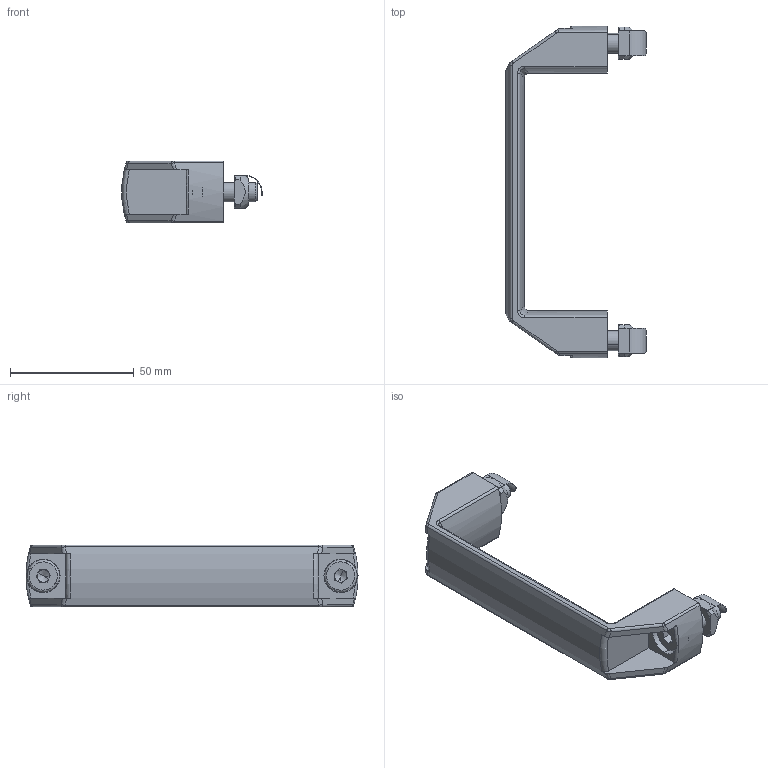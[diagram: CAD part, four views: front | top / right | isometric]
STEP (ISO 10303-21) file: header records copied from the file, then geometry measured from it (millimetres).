
FILE_DESCRIPTION (( 'STEP AP214' ), '1' );
FILE_NAME ('1.4018 Kahva 120.STEP', '2025-09-10T11:00:43', ( '' ), ( '' ), 'SwSTEP 2.0', 'SolidWorks 2025', '' );
FILE_SCHEMA (( 'AUTOMOTIVE_DESIGN' ));
Length unit declared in the file: millimetre
Products named in the file (1): 1.4018 Kahva 120
Bounding box: 56.53 x 134 x 25 mm (x, y, z)
Volume: 35135 mm3; surface area: 19384.2 mm2
Topology: 5 solids, 5 shells, 218 faces, 540 edges, 336 vertices
Faces by surface type: plane 100, cylinder 64, bspline 24, cone 18, torus 12
Entity records: 10852 total; most frequent: CARTESIAN_POINT 3484, ORIENTED_EDGE 1072, DIRECTION 952, EDGE_CURVE 536, AXIS2_PLACEMENT_3D 349, VERTEX_POINT 336, VECTOR 254, LINE 254
